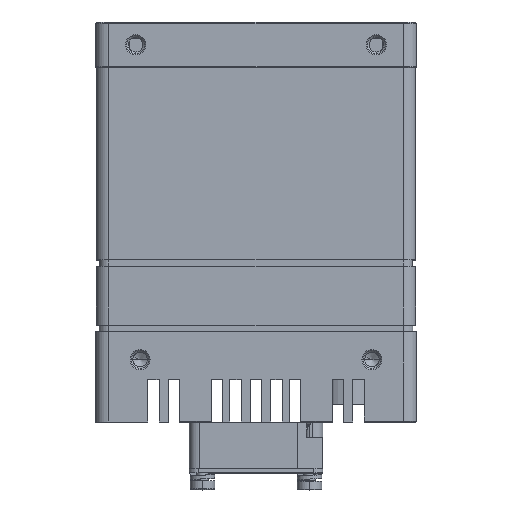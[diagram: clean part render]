
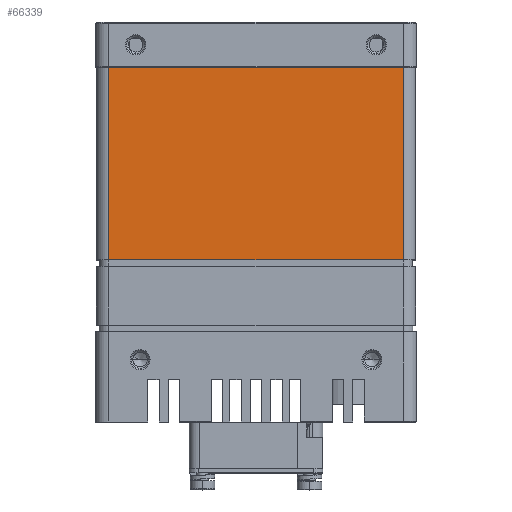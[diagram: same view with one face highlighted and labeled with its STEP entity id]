
A CAD part, top view. The second image highlights one B-rep face of the part: STEP entity #66339.
In plain terms, the highlighted planar face has unit normal (0, 0, 1).
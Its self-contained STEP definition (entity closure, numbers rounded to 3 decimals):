
#63633=DIRECTION('',(0.,1.,0.));
#63634=VECTOR('',#63633,43.1);
#63635=CARTESIAN_POINT('',(33.,-55.1,35.8));
#63636=LINE('',#63635,#63634);
#63640=DIRECTION('',(1.,0.,0.));
#63641=VECTOR('',#63640,66.);
#63642=CARTESIAN_POINT('',(-33.,-12.,35.8));
#63643=LINE('',#63642,#63641);
#63647=DIRECTION('',(-1.,0.,0.));
#63648=VECTOR('',#63647,66.);
#63649=CARTESIAN_POINT('',(33.,-55.1,35.8));
#63650=LINE('',#63649,#63648);
#63654=DIRECTION('',(0.,-1.,0.));
#63655=VECTOR('',#63654,43.1);
#63656=CARTESIAN_POINT('',(-33.,-12.,35.8));
#63657=LINE('',#63656,#63655);
#65580=CARTESIAN_POINT('',(33.,-55.1,35.8));
#65581=VERTEX_POINT('',#65580);
#65582=CARTESIAN_POINT('',(-33.,-55.1,35.8));
#65583=VERTEX_POINT('',#65582);
#65704=CARTESIAN_POINT('',(33.,-12.,35.8));
#65705=VERTEX_POINT('',#65704);
#65706=CARTESIAN_POINT('',(-33.,-12.,35.8));
#65707=VERTEX_POINT('',#65706);
#66327=CARTESIAN_POINT('',(0.,-33.55,35.8));
#66328=DIRECTION('',(0.,0.,1.));
#66329=DIRECTION('',(-1.,0.,0.));
#66330=AXIS2_PLACEMENT_3D('',#66327,#66328,#66329);
#66331=PLANE('',#66330);
#66332=ORIENTED_EDGE('',*,*,#66119,.T.);
#66333=ORIENTED_EDGE('',*,*,#66322,.F.);
#66334=ORIENTED_EDGE('',*,*,#65944,.T.);
#66336=ORIENTED_EDGE('',*,*,#66335,.F.);
#66337=EDGE_LOOP('',(#66332,#66333,#66334,#66336));
#66338=FACE_OUTER_BOUND('',#66337,.F.);
#66339=ADVANCED_FACE('',(#66338),#66331,.T.);
#65944=EDGE_CURVE('',#65581,#65583,#63650,.T.);
#66119=EDGE_CURVE('',#65707,#65705,#63643,.T.);
#66322=EDGE_CURVE('',#65581,#65705,#63636,.T.);
#66335=EDGE_CURVE('',#65707,#65583,#63657,.T.);
